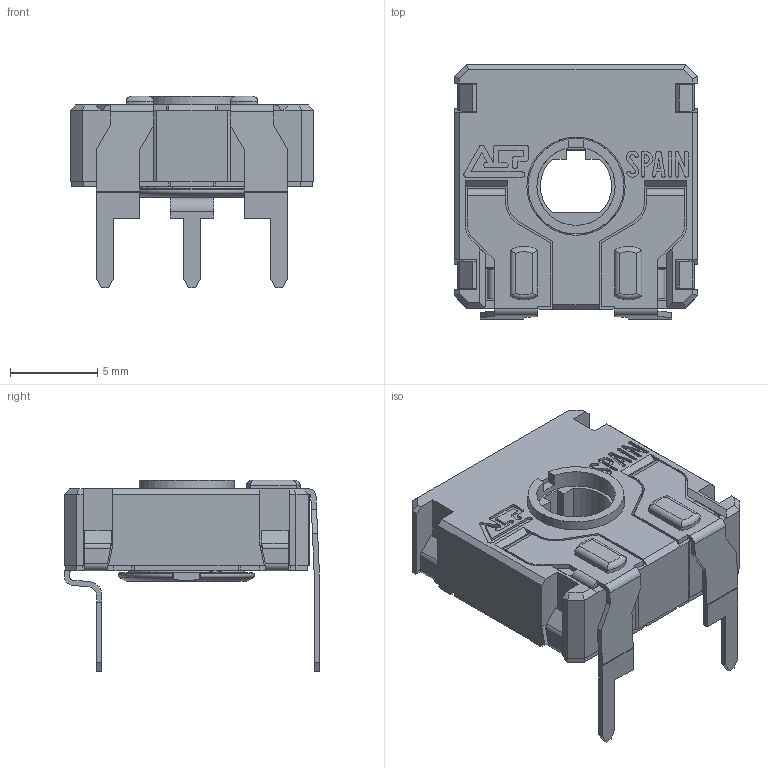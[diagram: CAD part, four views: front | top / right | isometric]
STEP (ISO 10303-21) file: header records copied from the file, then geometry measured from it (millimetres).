
FILE_DESCRIPTION(/* description */ (''),/* implementation_level */ '2;1');
FILE_NAME(/* name */ 'C:\Users\CEM\Desktop\ENVIAR\TRANSICION 3D CATALOGOS\CS14TV12.5.stp',/* time_stamp */ '2025-10-24T17:49:49+02:00',/* author */ ('CEM'),/* organization */ (''),/* preprocessor_version */ 'ST-DEVELOPER v17',/* originating_system */ 'Autodesk Inventor 2018',/* authorisation */ '');
FILE_SCHEMA (('AUTOMOTIVE_DESIGN { 1 0 10303 214 3 1 1 }'));
Length unit declared in the file: millimetre
Products named in the file (1): CS14TV12.5
Bounding box: 14 x 14.65 x 11 mm (x, y, z)
Volume: 550.4 mm3; surface area: 1621.6 mm2
Topology: 1 solids, 3 shells, 727 faces, 2042 edges, 1320 vertices
Faces by surface type: plane 548, cylinder 140, cone 17, torus 12, bspline 10
Full cylindrical faces by diameter (mm): 4.5 x1, 5.5 x1, 5.65 x1, 6.87 x1
Entity records: 24269 total; most frequent: CARTESIAN_POINT 4521, ORIENTED_EDGE 4084, DIRECTION 3794, EDGE_CURVE 2042, LINE 1608, VECTOR 1608, VERTEX_POINT 1320, AXIS2_PLACEMENT_3D 1093
